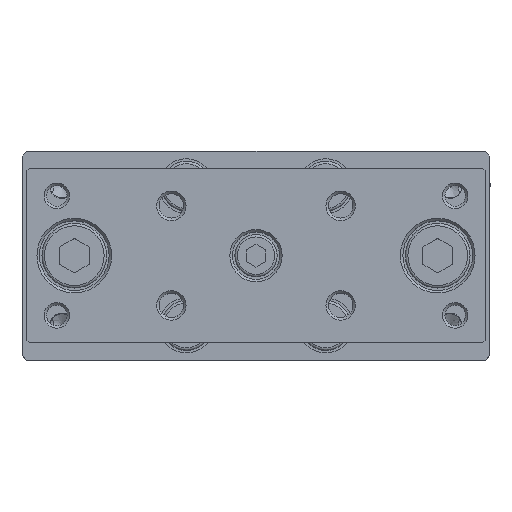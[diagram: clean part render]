
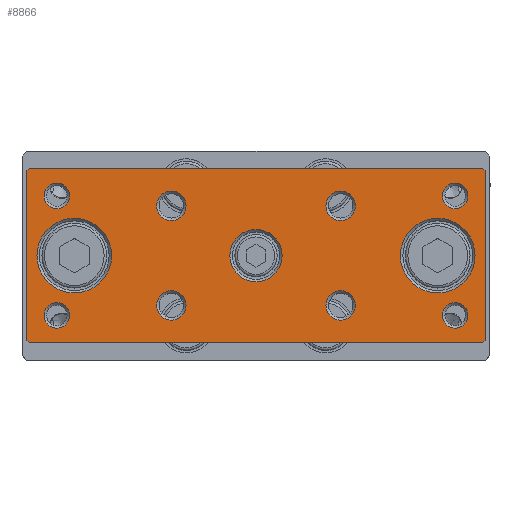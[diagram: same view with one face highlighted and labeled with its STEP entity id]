
A CAD part, top view. The second image highlights one B-rep face of the part: STEP entity #8866.
In plain terms, the highlighted planar face has unit normal (0, 0, 1).
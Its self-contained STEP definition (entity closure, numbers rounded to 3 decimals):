
#7566=CARTESIAN_POINT('',(42.976,19.784,133.2));
#7567=VERTEX_POINT('',#7566);
#7568=CARTESIAN_POINT('',(43.476,19.284,133.2));
#7569=VERTEX_POINT('',#7568);
#7570=CARTESIAN_POINT('',(42.976,19.784,133.2));
#7571=DIRECTION('',(0.707,-0.707,0.0));
#7572=VECTOR('',#7571,0.707);
#7573=LINE('',#7570,#7572);
#7574=EDGE_CURVE('',#7567,#7569,#7573,.T.);
#7708=CARTESIAN_POINT('',(-48.024,19.784,133.2));
#7709=VERTEX_POINT('',#7708);
#7718=CARTESIAN_POINT('',(42.976,19.784,133.2));
#7719=DIRECTION('',(-1.0,0.0,0.0));
#7720=VECTOR('',#7719,91.);
#7721=LINE('',#7718,#7720);
#7722=EDGE_CURVE('',#7567,#7709,#7721,.T.);
#7767=CARTESIAN_POINT('',(43.476,-14.716,133.2));
#7768=VERTEX_POINT('',#7767);
#7782=CARTESIAN_POINT('',(43.476,-14.716,133.2));
#7783=DIRECTION('',(0.0,1.0,0.0));
#7784=VECTOR('',#7783,34.0);
#7785=LINE('',#7782,#7784);
#7786=EDGE_CURVE('',#7768,#7569,#7785,.T.);
#7805=CARTESIAN_POINT('',(42.976,-15.216,133.2));
#7806=VERTEX_POINT('',#7805);
#7807=CARTESIAN_POINT('',(43.476,-14.716,133.2));
#7808=DIRECTION('',(-0.707,-0.707,0.0));
#7809=VECTOR('',#7808,0.707);
#7810=LINE('',#7807,#7809);
#7811=EDGE_CURVE('',#7768,#7806,#7810,.T.);
#7827=CARTESIAN_POINT('',(-48.024,-15.216,133.2));
#7828=VERTEX_POINT('',#7827);
#7829=CARTESIAN_POINT('',(-48.524,-14.716,133.2));
#7830=VERTEX_POINT('',#7829);
#7831=CARTESIAN_POINT('',(-48.024,-15.216,133.2));
#7832=DIRECTION('',(-0.707,0.707,0.0));
#7833=VECTOR('',#7832,0.707);
#7834=LINE('',#7831,#7833);
#7835=EDGE_CURVE('',#7828,#7830,#7834,.T.);
#7935=CARTESIAN_POINT('',(-48.024,-15.216,133.2));
#7936=DIRECTION('',(1.0,0.0,0.0));
#7937=VECTOR('',#7936,91.);
#7938=LINE('',#7935,#7937);
#7939=EDGE_CURVE('',#7828,#7806,#7938,.T.);
#8123=CARTESIAN_POINT('',(-48.524,19.284,133.2));
#8124=VERTEX_POINT('',#8123);
#8133=CARTESIAN_POINT('',(-48.524,19.284,133.2));
#8134=DIRECTION('',(0.0,-1.0,0.0));
#8135=VECTOR('',#8134,34.0);
#8136=LINE('',#8133,#8135);
#8137=EDGE_CURVE('',#8124,#7830,#8136,.T.);
#8149=CARTESIAN_POINT('',(-48.524,19.284,133.2));
#8150=DIRECTION('',(0.707,0.707,0.0));
#8151=VECTOR('',#8150,0.707);
#8152=LINE('',#8149,#8151);
#8153=EDGE_CURVE('',#8124,#7709,#8152,.T.);
#8208=CARTESIAN_POINT('',(2.726,2.284,133.2));
#8209=VERTEX_POINT('',#8208);
#8210=CARTESIAN_POINT('',(-2.524,2.284,133.2));
#8211=DIRECTION('',(0.0,0.0,1.0));
#8212=DIRECTION('',(-1.0,0.0,0.0));
#8213=AXIS2_PLACEMENT_3D('',#8210,#8211,#8212);
#8214=CIRCLE('',#8213,5.25);
#8215=EDGE_CURVE('',#8209,#8209,#8214,.T.);
#8269=CARTESIAN_POINT('',(-39.957,14.284,133.2));
#8270=VERTEX_POINT('',#8269);
#8271=CARTESIAN_POINT('',(-42.524,14.284,133.2));
#8272=DIRECTION('',(0.0,0.0,1.0));
#8273=DIRECTION('',(-1.0,0.0,0.0));
#8274=AXIS2_PLACEMENT_3D('',#8271,#8272,#8273);
#8275=CIRCLE('',#8274,2.567);
#8276=EDGE_CURVE('',#8270,#8270,#8275,.T.);
#8330=CARTESIAN_POINT('',(41.476,2.284,133.2));
#8331=VERTEX_POINT('',#8330);
#8332=CARTESIAN_POINT('',(33.976,2.284,133.2));
#8333=DIRECTION('',(0.0,0.0,1.0));
#8334=DIRECTION('',(-1.0,0.0,0.0));
#8335=AXIS2_PLACEMENT_3D('',#8332,#8333,#8334);
#8336=CIRCLE('',#8335,7.5);
#8337=EDGE_CURVE('',#8331,#8331,#8336,.T.);
#8391=CARTESIAN_POINT('',(-39.957,-9.716,133.2));
#8392=VERTEX_POINT('',#8391);
#8393=CARTESIAN_POINT('',(-42.524,-9.716,133.2));
#8394=DIRECTION('',(0.0,0.0,1.0));
#8395=DIRECTION('',(-1.0,0.0,0.0));
#8396=AXIS2_PLACEMENT_3D('',#8393,#8394,#8395);
#8397=CIRCLE('',#8396,2.567);
#8398=EDGE_CURVE('',#8392,#8392,#8397,.T.);
#8452=CARTESIAN_POINT('',(-31.524,2.284,133.2));
#8453=VERTEX_POINT('',#8452);
#8454=CARTESIAN_POINT('',(-39.024,2.284,133.2));
#8455=DIRECTION('',(0.0,0.0,1.0));
#8456=DIRECTION('',(-1.0,0.0,0.0));
#8457=AXIS2_PLACEMENT_3D('',#8454,#8455,#8456);
#8458=CIRCLE('',#8457,7.5);
#8459=EDGE_CURVE('',#8453,#8453,#8458,.T.);
#8513=CARTESIAN_POINT('',(40.043,-9.716,133.2));
#8514=VERTEX_POINT('',#8513);
#8515=CARTESIAN_POINT('',(37.476,-9.716,133.2));
#8516=DIRECTION('',(0.0,0.0,1.0));
#8517=DIRECTION('',(-1.0,0.0,0.0));
#8518=AXIS2_PLACEMENT_3D('',#8515,#8516,#8517);
#8519=CIRCLE('',#8518,2.567);
#8520=EDGE_CURVE('',#8514,#8514,#8519,.T.);
#8574=CARTESIAN_POINT('',(17.434,-7.716,133.2));
#8575=VERTEX_POINT('',#8574);
#8576=CARTESIAN_POINT('',(14.476,-7.716,133.2));
#8577=DIRECTION('',(0.0,0.0,1.0));
#8578=DIRECTION('',(-1.0,0.0,0.0));
#8579=AXIS2_PLACEMENT_3D('',#8576,#8577,#8578);
#8580=CIRCLE('',#8579,2.959);
#8581=EDGE_CURVE('',#8575,#8575,#8580,.T.);
#8635=CARTESIAN_POINT('',(40.043,14.284,133.2));
#8636=VERTEX_POINT('',#8635);
#8637=CARTESIAN_POINT('',(37.476,14.284,133.2));
#8638=DIRECTION('',(0.0,0.0,1.0));
#8639=DIRECTION('',(-1.0,0.0,0.0));
#8640=AXIS2_PLACEMENT_3D('',#8637,#8638,#8639);
#8641=CIRCLE('',#8640,2.567);
#8642=EDGE_CURVE('',#8636,#8636,#8641,.T.);
#8696=CARTESIAN_POINT('',(-16.566,-7.716,133.2));
#8697=VERTEX_POINT('',#8696);
#8698=CARTESIAN_POINT('',(-19.524,-7.716,133.2));
#8699=DIRECTION('',(0.0,0.0,1.0));
#8700=DIRECTION('',(-1.0,0.0,0.0));
#8701=AXIS2_PLACEMENT_3D('',#8698,#8699,#8700);
#8702=CIRCLE('',#8701,2.958);
#8703=EDGE_CURVE('',#8697,#8697,#8702,.T.);
#8757=CARTESIAN_POINT('',(-16.566,12.284,133.2));
#8758=VERTEX_POINT('',#8757);
#8759=CARTESIAN_POINT('',(-19.524,12.284,133.2));
#8760=DIRECTION('',(0.0,0.0,1.0));
#8761=DIRECTION('',(-1.0,0.0,0.0));
#8762=AXIS2_PLACEMENT_3D('',#8759,#8760,#8761);
#8763=CIRCLE('',#8762,2.958);
#8764=EDGE_CURVE('',#8758,#8758,#8763,.T.);
#8810=CARTESIAN_POINT('',(-48.524,2.284,133.2));
#8811=DIRECTION('',(0.0,0.0,1.0));
#8812=DIRECTION('',(1.0,0.0,0.0));
#8813=AXIS2_PLACEMENT_3D('',#8810,#8811,#8812);
#8814=PLANE('',#8813);
#8815=ORIENTED_EDGE('',*,*,#8153,.F.);
#8816=ORIENTED_EDGE('',*,*,#8137,.T.);
#8817=ORIENTED_EDGE('',*,*,#7835,.F.);
#8818=ORIENTED_EDGE('',*,*,#7939,.T.);
#8819=ORIENTED_EDGE('',*,*,#7811,.F.);
#8820=ORIENTED_EDGE('',*,*,#7786,.T.);
#8821=ORIENTED_EDGE('',*,*,#7574,.F.);
#8822=ORIENTED_EDGE('',*,*,#7722,.T.);
#8823=EDGE_LOOP('',(#8815,#8816,#8817,#8818,#8819,#8820,#8821,#8822));
#8824=FACE_OUTER_BOUND('',#8823,.T.);
#8825=ORIENTED_EDGE('',*,*,#8764,.F.);
#8826=EDGE_LOOP('',(#8825));
#8827=FACE_BOUND('',#8826,.T.);
#8828=ORIENTED_EDGE('',*,*,#8642,.F.);
#8829=EDGE_LOOP('',(#8828));
#8830=FACE_BOUND('',#8829,.T.);
#8831=ORIENTED_EDGE('',*,*,#8520,.F.);
#8832=EDGE_LOOP('',(#8831));
#8833=FACE_BOUND('',#8832,.T.);
#8834=ORIENTED_EDGE('',*,*,#8398,.F.);
#8835=EDGE_LOOP('',(#8834));
#8836=FACE_BOUND('',#8835,.T.);
#8837=ORIENTED_EDGE('',*,*,#8276,.F.);
#8838=EDGE_LOOP('',(#8837));
#8839=FACE_BOUND('',#8838,.T.);
#8840=ORIENTED_EDGE('',*,*,#8215,.F.);
#8841=EDGE_LOOP('',(#8840));
#8842=FACE_BOUND('',#8841,.T.);
#8843=ORIENTED_EDGE('',*,*,#8337,.F.);
#8844=EDGE_LOOP('',(#8843));
#8845=FACE_BOUND('',#8844,.T.);
#8846=ORIENTED_EDGE('',*,*,#8459,.F.);
#8847=EDGE_LOOP('',(#8846));
#8848=FACE_BOUND('',#8847,.T.);
#8849=ORIENTED_EDGE('',*,*,#8581,.F.);
#8850=EDGE_LOOP('',(#8849));
#8851=FACE_BOUND('',#8850,.T.);
#8852=ORIENTED_EDGE('',*,*,#8703,.F.);
#8853=EDGE_LOOP('',(#8852));
#8854=FACE_BOUND('',#8853,.T.);
#8855=CARTESIAN_POINT('',(17.434,12.284,133.2));
#8856=VERTEX_POINT('',#8855);
#8857=CARTESIAN_POINT('',(14.476,12.284,133.2));
#8858=DIRECTION('',(0.0,0.0,1.0));
#8859=DIRECTION('',(-1.0,0.0,0.0));
#8860=AXIS2_PLACEMENT_3D('',#8857,#8858,#8859);
#8861=CIRCLE('',#8860,2.959);
#8862=EDGE_CURVE('',#8856,#8856,#8861,.T.);
#8863=ORIENTED_EDGE('',*,*,#8862,.F.);
#8864=EDGE_LOOP('',(#8863));
#8865=FACE_BOUND('',#8864,.T.);
#8866=ADVANCED_FACE('',(#8824,#8827,#8830,#8833,#8836,#8839,#8842,#8845,#8848,#8851,#8854,#8865),#8814,.T.);
